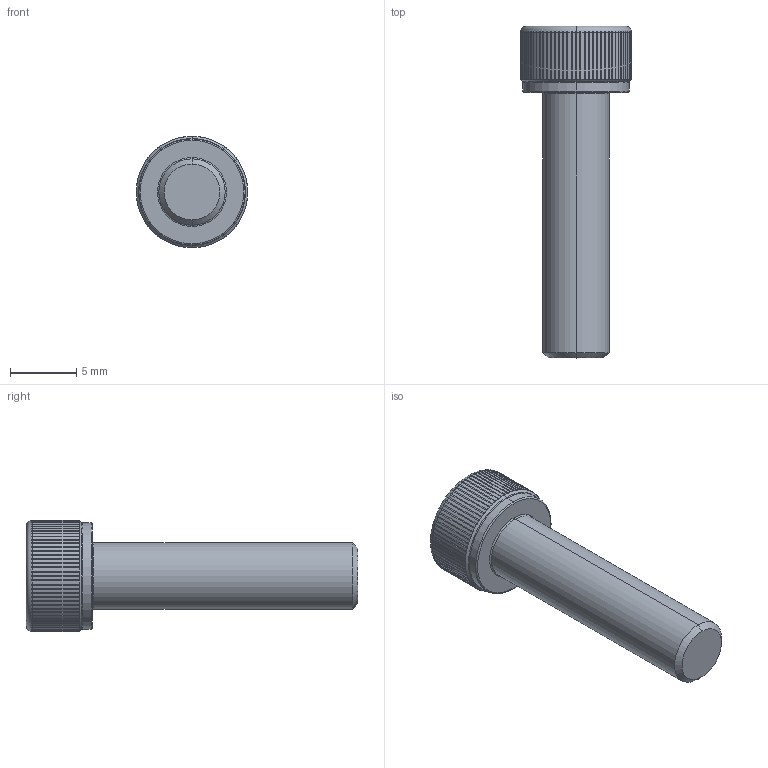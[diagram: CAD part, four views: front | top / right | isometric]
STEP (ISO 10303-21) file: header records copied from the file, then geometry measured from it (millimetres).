
FILE_DESCRIPTION (( 'STEP AP203' ), '1' );
FILE_NAME ('LGDT-304-M5x20.STEP', '2026-08-10T03:49:43', ( '' ), ( '' ), 'SwSTEP 2.0', 'SolidWorks 2020', '' );
FILE_SCHEMA (( 'CONFIG_CONTROL_DESIGN' ));
Length unit declared in the file: millimetre
Products named in the file (1): LGDT-304-M5x20
Bounding box: 8.4 x 25 x 8.4 mm (x, y, z)
Volume: 620.7 mm3; surface area: 582.8 mm2
Topology: 1 solids, 1 shells, 204 faces, 576 edges, 376 vertices
Faces by surface type: cylinder 175, cone 11, plane 10, torus 8
Entity records: 8367 total; most frequent: CARTESIAN_POINT 3208, ORIENTED_EDGE 1152, DIRECTION 988, EDGE_CURVE 576, AXIS2_PLACEMENT_3D 398, VERTEX_POINT 376, EDGE_LOOP 206, FACE_OUTER_BOUND 204
